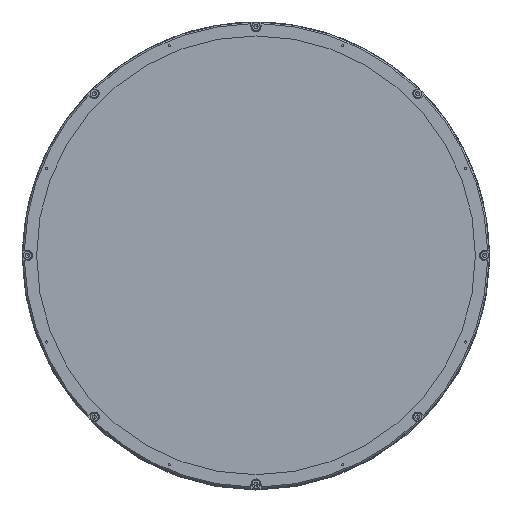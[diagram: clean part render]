
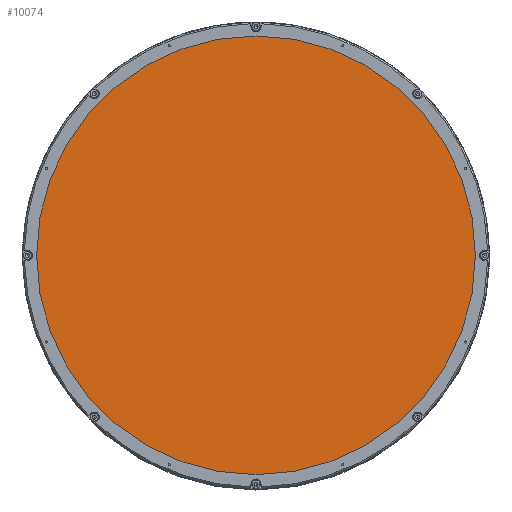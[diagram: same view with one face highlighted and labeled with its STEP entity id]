
A CAD part, top view. The second image highlights one B-rep face of the part: STEP entity #10074.
In plain terms, the highlighted planar face has unit normal (0, 0, 1).
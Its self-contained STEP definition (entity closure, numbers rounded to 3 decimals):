
#766 = DIRECTION ( 'NONE',  ( 0., 0., -1. ) ) ;
#1160 = ORIENTED_EDGE ( 'NONE', *, *, #10469, .F. ) ;
#1427 = EDGE_LOOP ( 'NONE', ( #1160 ) ) ;
#2186 = ORIENTED_EDGE ( 'NONE', *, *, #20419, .T. ) ;
#3722 = CARTESIAN_POINT ( 'NONE',  ( 0., 0., 606.14 ) ) ;
#4039 = CARTESIAN_POINT ( 'NONE',  ( -57.403, -138.582, 606.14 ) ) ;
#4197 = VERTEX_POINT ( 'NONE', #4039 ) ;
#5510 = DIRECTION ( 'NONE',  ( -1., 0., 0. ) ) ;
#7479 = AXIS2_PLACEMENT_3D ( 'NONE', #3722, #15990, #5510 ) ;
#9601 = DIRECTION ( 'NONE',  ( 0., 0., 1. ) ) ;
#10074 = ADVANCED_FACE ( 'NONE', ( #12876, #17476 ), #20002, .F. ) ;
#10469 = EDGE_CURVE ( 'NONE', #17934, #17934, #19654, .T. ) ;
#11864 = AXIS2_PLACEMENT_3D ( 'NONE', #21755, #766, #13079 ) ;
#12876 = FACE_OUTER_BOUND ( 'NONE', #15577, .T. ) ;
#13079 = DIRECTION ( 'NONE',  ( -1., 0., 0. ) ) ;
#13413 = CIRCLE ( 'NONE', #19409, 150. ) ;
#15577 = EDGE_LOOP ( 'NONE', ( #2186 ) ) ;
#15990 = DIRECTION ( 'NONE',  ( 0., 0., 1. ) ) ;
#17476 = FACE_BOUND ( 'NONE', #1427, .T. ) ;
#17934 = VERTEX_POINT ( 'NONE', #19047 ) ;
#19047 = CARTESIAN_POINT ( 'NONE',  ( -149.9, 0., 606.14 ) ) ;
#19409 = AXIS2_PLACEMENT_3D ( 'NONE', #20047, #9601, #21805 ) ;
#19654 = CIRCLE ( 'NONE', #7479, 149.9 ) ;
#20002 = PLANE ( 'NONE',  #11864 ) ;
#20047 = CARTESIAN_POINT ( 'NONE',  ( 0., 0., 606.14 ) ) ;
#20419 = EDGE_CURVE ( 'NONE', #4197, #4197, #13413, .T. ) ;
#21755 = CARTESIAN_POINT ( 'NONE',  ( 0., 143.046, 606.14 ) ) ;
#21805 = DIRECTION ( 'NONE',  ( -0.383, -0.924, 0. ) ) ;
